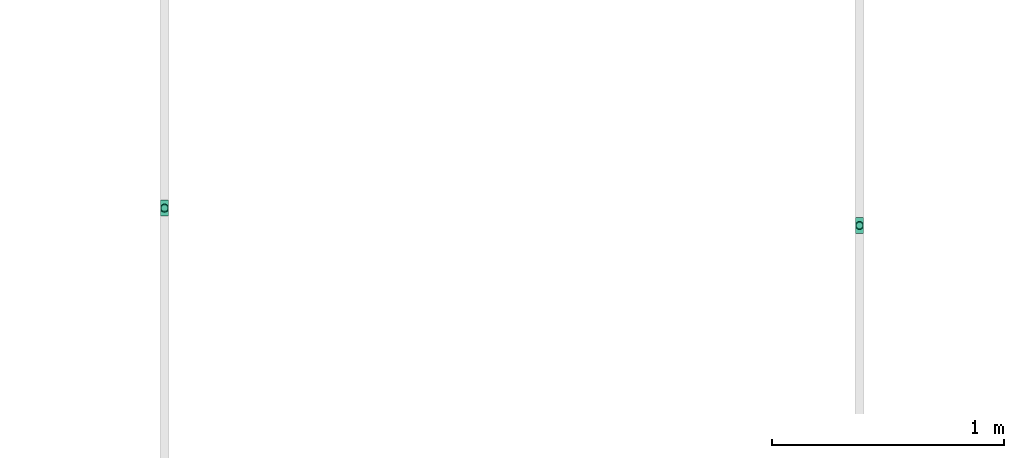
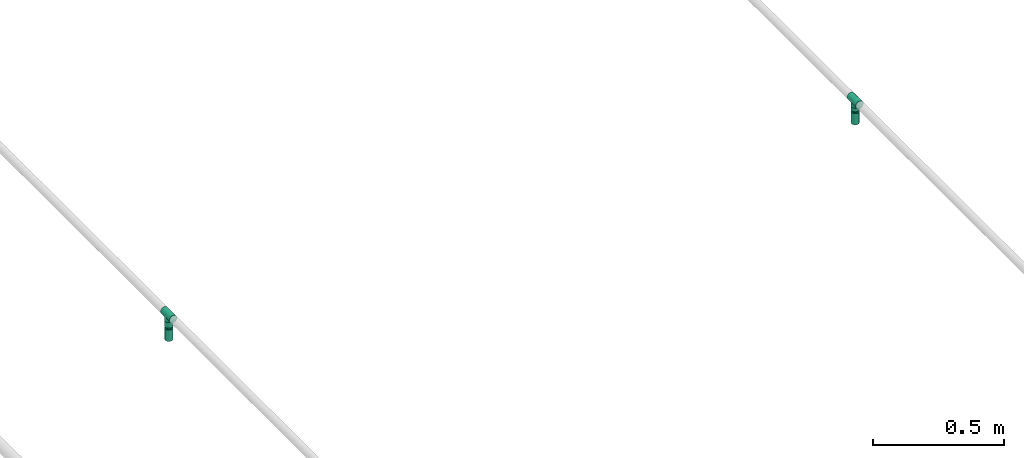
# One storey, part 16 of 32: 4 flow fittings, 2 flow segments, 2 flow terminals.
"""IFC2X3 building model written with IfcOpenShell, lengths in millimetres."""

from ifc_helpers import new_model, entity, si_unit, converted_unit, derived_unit, direction, frame, origin_with_axes, origin_2d_with_axis, place, context, subcontext, project, spatial, hollow_circle, extrude, open_shell, surface_model, source, transform, mapped, type_object, element, save


model = new_model("IFC2X3")

# Units and contexts
model_context = context("Model", 3, precision=0.01, world=frame((0.0, 4.29681676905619e-09, 0.0)), true_north=direction((4.01073788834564e-13, 1.0)))
plan_context = context("Plan", 3, precision=0.01, world=frame((0.0, 4.29681676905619e-09, 0.0)), true_north=direction((4.01073788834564e-13, 1.0)))
body_context = subcontext(model_context, "Body", "Model", "MODEL_VIEW")
ifc_project = project(units=[converted_unit("PLANEANGLEUNIT", "DEGREE", entity("IfcPositiveLengthMeasure", 0.0174532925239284), si_unit("PLANEANGLEUNIT", "RADIAN"), dimensions=[0, 0, 0, 0, 0, 0, 0]), si_unit("AREAUNIT", "SQUARE_METRE"), si_unit("LENGTHUNIT", "METRE", prefix="MILLI"), si_unit("MASSUNIT", "GRAM", prefix="KILO"), si_unit("POWERUNIT", "WATT"), si_unit("PRESSUREUNIT", "PASCAL", prefix="KILO"), si_unit("FORCEUNIT", "NEWTON", prefix="KILO"), si_unit("ELECTRICVOLTAGEUNIT", "VOLT"), si_unit("ELECTRICCURRENTUNIT", "AMPERE"), si_unit("THERMODYNAMICTEMPERATUREUNIT", "DEGREE_CELSIUS"), si_unit("TIMEUNIT", "SECOND"), si_unit("VOLUMEUNIT", "CUBIC_METRE"), derived_unit("LINEARVELOCITYUNIT", [(si_unit("LENGTHUNIT", "METRE"), 1), (si_unit("TIMEUNIT", "SECOND"), -1)]), derived_unit("VOLUMETRICFLOWRATEUNIT", [(si_unit("VOLUMEUNIT", "CUBIC_METRE"), 1), (si_unit("TIMEUNIT", "SECOND"), -1)]), derived_unit("THERMALTRANSMITTANCEUNIT", [(si_unit("POWERUNIT", "WATT"), 1), (si_unit("THERMODYNAMICTEMPERATUREUNIT", "KELVIN"), -1), (si_unit("AREAUNIT", "SQUARE_METRE"), -1)]), derived_unit("SOUNDPRESSUREUNIT", [(si_unit("PRESSUREUNIT", "PASCAL"), 1)])], contexts=[model_context, plan_context])

# Site, building, storey
site_placement = place(None, frame((0.0, -4.29681676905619e-09, 0.0), z_axis=(0.0, 0.0, 1.0), x_axis=(1.0, 0.0, 0.0)))
site = spatial("IfcSite", under=ifc_project, at=site_placement, CompositionType="ELEMENT")
building_placement = place(site_placement, frame((0.0, 4.29681676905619e-09, 0.0), z_axis=(0.0, 0.0, 1.0), x_axis=(1.0, 0.0, 0.0)))
building = spatial("IfcBuilding", under=site, at=building_placement, Name="mc-building", CompositionType="ELEMENT")
storey_placement = place(building_placement, frame((0.0, 0.0, 205200.0), z_axis=(0.0, 0.0, 1.0), x_axis=(1.0, 0.0, 0.0)))
storey = spatial("IfcBuildingStorey", under=building, at=storey_placement, Name="Nivå D + 1,2 m", CompositionType="ELEMENT", Elevation=205200.0)

# Flow fittings
pipe_fitting_type_1 = type_object("IfcPipeFittingType", Name="magi_pipe_fe_tee_centric_90_001", PredefinedType="JUNCTION")
shared_shape_1 = source(origin_with_axes(), body_context, "Body", "SurfaceModel", [
    surface_model("IfcShellBasedSurfaceModel", [(-33.8, 4.37404, -16.32415), (-33.8, 0.0, -16.9), (-33.8, 16.32415, -4.37404), (-33.8, 8.45, -14.63583), (-33.8, 11.9501, -11.9501), (-33.8, 14.63583, -8.45), (-33.8, -16.9, 0.0), (-33.8, -11.9501, -11.9501), (-33.8, -14.63583, -8.45), (-33.8, -8.45, -14.63583), (-33.8, -4.37404, -16.32415), (-33.8, -16.32415, -4.37404), (-33.8, 14.63583, 8.45), (-33.8, 16.32415, 4.37404), (-33.8, -8.45, 14.63583), (-33.8, 8.45, 14.63583), (-33.8, 11.9501, 11.9501), (-33.8, 4.37404, 16.32415), (-33.8, 0.0, 16.9), (-33.8, -11.9501, 11.9501), (-33.8, -14.63583, 8.45), (-33.8, -16.32415, 4.37404), (-33.8, -4.37404, 16.32415), (-33.8, 16.9, 0.0), (33.8, 4.37404, -16.32415), (33.8, -16.9, 0.0), (33.8, 0.0, -16.9), (33.8, 14.63583, -8.45), (33.8, 8.45, -14.63583), (33.8, 16.32415, -4.37404), (33.8, 11.9501, -11.9501), (33.8, -16.32415, 4.37404), (33.8, -8.45, -14.63583), (33.8, -4.37404, -16.32415), (33.8, -11.9501, -11.9501), (33.8, -14.63583, -8.45), (33.8, -16.32415, -4.37404), (33.8, 16.32415, 4.37404), (33.8, 8.45, 14.63583), (33.8, 14.63583, 8.45), (33.8, 11.9501, 11.9501), (33.8, -8.45, 14.63583), (33.8, 4.37404, 16.32415), (33.8, -14.63583, 8.45), (33.8, -11.9501, 11.9501), (33.8, 0.0, 16.9), (33.8, -4.37404, 16.32415), (33.8, 16.9, 0.0), (16.28698, -16.28698, 4.51047), (16.9, -16.9, 0.0), (14.62704, -14.62704, 8.4652), (9.47213, -9.47213, 13.99602), (12.26343, -12.26343, 11.62834), (-16.9, -16.9, 0.0), (-16.28698, -16.28698, 4.51047), (-14.62704, -14.62704, 8.4652), (-12.26343, -12.26343, 11.62834), (-9.47213, -9.47213, 13.99602), (-6.42894, -6.42894, 15.62942), (6.42894, -6.42894, 15.62942), (3.24522, -3.24522, 16.58549), (0.0, 0.0, 16.9), (-3.24522, -3.24522, 16.58549), (3.24522, -3.24522, -16.58549), (0.0, 0.0, -16.9), (-3.24522, -3.24522, -16.58549), (-6.42894, -6.42894, -15.62942), (6.42894, -6.42894, -15.62942), (9.47213, -9.47213, -13.99602), (12.26343, -12.26343, -11.62834), (14.62704, -14.62704, -8.4652), (16.28698, -16.28698, -4.51047), (-9.47213, -9.47213, -13.99602), (-12.26343, -12.26343, -11.62834), (-16.28698, -16.28698, -4.51047), (-14.62704, -14.62704, -8.4652), (4.37404, -25.35, -16.32415), (-16.9, -25.35, 0.0), (0.0, -25.35, -16.9), (14.63583, -25.35, -8.45), (8.45, -25.35, -14.63583), (16.32415, -25.35, -4.37404), (11.9501, -25.35, -11.9501), (-11.9501, -25.35, -11.9501), (-8.45, -25.35, -14.63583), (-4.37404, -25.35, -16.32415), (-14.63583, -25.35, -8.45), (-16.32415, -25.35, -4.37404), (16.9, -25.35, 0.0), (8.45, -25.35, 14.63583), (16.32415, -25.35, 4.37404), (14.63583, -25.35, 8.45), (-8.45, -25.35, 14.63583), (11.9501, -25.35, 11.9501), (4.37404, -25.35, 16.32415), (-16.32415, -25.35, 4.37404), (-11.9501, -25.35, 11.9501), (-14.63583, -25.35, 8.45), (0.0, -25.35, 16.9), (-4.37404, -25.35, 16.32415)], [open_shell([[[0, 1, 2]], [[3, 0, 4]], [[0, 2, 5]], [[4, 0, 5]], [[6, 2, 1]], [[7, 8, 9]], [[1, 10, 9]], [[11, 6, 8]], [[1, 9, 8]], [[1, 8, 6]], [[6, 12, 2]], [[12, 13, 2]], [[14, 12, 6]], [[12, 14, 15]], [[16, 12, 15]], [[17, 15, 18]], [[19, 14, 20]], [[21, 20, 14]], [[22, 18, 14]], [[14, 6, 21]], [[14, 18, 15]], [[23, 2, 13]], [[24, 25, 26]], [[27, 24, 28]], [[27, 29, 24]], [[27, 28, 30]], [[31, 25, 24]], [[26, 32, 33]], [[26, 34, 32]], [[35, 25, 36]], [[35, 34, 26]], [[25, 35, 26]], [[24, 29, 31]], [[29, 37, 38]], [[38, 37, 39]], [[38, 31, 29]], [[38, 39, 40]], [[41, 38, 42]], [[43, 41, 44]], [[41, 43, 31]], [[41, 45, 46]], [[41, 31, 38]], [[42, 45, 41]], [[29, 47, 37]], [[31, 43, 48]], [[25, 31, 49]], [[49, 31, 48]], [[43, 50, 48]], [[44, 41, 51]], [[50, 43, 52]], [[51, 52, 44]], [[52, 43, 44]], [[53, 54, 21]], [[53, 21, 6]], [[21, 54, 20]], [[54, 55, 20]], [[56, 57, 19]], [[19, 20, 56]], [[19, 57, 14]], [[56, 20, 55]], [[14, 57, 58]], [[51, 41, 59]], [[60, 45, 61]], [[59, 46, 60]], [[46, 59, 41]], [[60, 46, 45]], [[61, 45, 42]], [[39, 37, 13]], [[16, 38, 40]], [[12, 40, 39]], [[42, 38, 15]], [[23, 37, 47]], [[62, 61, 18]], [[62, 22, 58]], [[22, 62, 18]], [[58, 22, 14]], [[61, 17, 18]], [[42, 17, 61]], [[15, 17, 42]], [[15, 38, 16]], [[12, 16, 40]], [[13, 12, 39]], [[37, 23, 13]], [[5, 27, 30]], [[23, 47, 29]], [[30, 28, 3]], [[27, 2, 29]], [[26, 33, 63]], [[26, 64, 24]], [[64, 26, 63]], [[28, 24, 0]], [[64, 0, 24]], [[4, 30, 3]], [[2, 27, 5]], [[5, 30, 4]], [[2, 23, 29]], [[65, 66, 10]], [[1, 0, 64]], [[1, 65, 10]], [[66, 9, 10]], [[0, 3, 28]], [[1, 64, 65]], [[63, 33, 67]], [[32, 34, 68]], [[69, 68, 34]], [[35, 70, 69]], [[69, 34, 35]], [[32, 68, 67]], [[36, 25, 49]], [[36, 71, 35]], [[71, 36, 49]], [[35, 71, 70]], [[72, 9, 66]], [[72, 7, 9]], [[7, 72, 73]], [[7, 73, 8]], [[74, 53, 11]], [[75, 74, 8]], [[74, 11, 8]], [[11, 53, 6]], [[75, 8, 73]], [[32, 67, 33]], [[76, 77, 78]], [[79, 76, 80]], [[79, 81, 76]], [[79, 80, 82]], [[77, 76, 81]], [[78, 83, 84]], [[84, 85, 78]], [[86, 77, 87]], [[83, 78, 86]], [[77, 86, 78]], [[81, 88, 77]], [[89, 88, 90]], [[89, 90, 91]], [[92, 77, 89]], [[89, 91, 93]], [[92, 89, 94]], [[95, 96, 97]], [[96, 95, 92]], [[92, 98, 99]], [[95, 77, 92]], [[94, 98, 92]], [[89, 77, 88]], [[77, 95, 53]], [[54, 53, 95]], [[97, 96, 56]], [[96, 92, 57]], [[95, 97, 54]], [[58, 92, 99]], [[55, 54, 97]], [[56, 55, 97]], [[58, 57, 92]], [[98, 61, 62]], [[58, 99, 62]], [[56, 96, 57]], [[62, 99, 98]], [[94, 60, 98]], [[89, 59, 94]], [[91, 90, 48]], [[52, 93, 91]], [[93, 51, 89]], [[49, 90, 88]], [[59, 60, 94]], [[51, 59, 89]], [[49, 48, 90]], [[50, 52, 91]], [[48, 50, 91]], [[51, 93, 52]], [[98, 60, 61]], [[88, 81, 49]], [[71, 49, 81]], [[79, 82, 69]], [[82, 80, 68]], [[81, 79, 71]], [[67, 80, 76]], [[70, 71, 79]], [[69, 70, 79]], [[67, 68, 80]], [[78, 64, 63]], [[67, 76, 63]], [[69, 82, 68]], [[63, 76, 78]], [[85, 65, 78]], [[84, 66, 85]], [[86, 87, 74]], [[86, 73, 83]], [[72, 84, 83]], [[53, 87, 77]], [[66, 65, 85]], [[72, 66, 84]], [[53, 74, 87]], [[75, 73, 86]], [[74, 75, 86]], [[72, 83, 73]], [[78, 65, 64]]])]),
])
for number, where, z_axis, x_axis, name in (
    (1, (335492.5, 463892.26745, 4444.43145999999), (-1.0, 0.0, 0.0), (0.0, -1.0, 0.0), "magi_pipe_fe_tee_centric_90_001"),
    (2, (332502.5, 463967.26745, 4444.43145999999), (-1.0, 0.0, 0.0), (0.0, -1.0, 0.0), "magi_pipe_fe_tee_centric_90_001"),
):
    element("IfcFlowFitting", number, at=place(storey_placement, frame(where, z_axis=z_axis, x_axis=x_axis)), inside=storey, type_object=pipe_fitting_type_1, Name=name, context=body_context, shape_type="MappedRepresentation", body=[
        mapped(shared_shape_1, transform((0.0, 0.0, 0.0), scale=1.0)),
    ])
pipe_fitting_type_2 = type_object("IfcPipeFittingType", Name="magi_pipe_fe_reducer_centric_short_001", PredefinedType="TRANSITION")
shared_shape_2 = source(origin_with_axes(), body_context, "Body", "SurfaceModel", [
    surface_model("IfcShellBasedSurfaceModel", [(-2.0, 11.9501, 11.9501), (-2.0, 0.0, 16.9), (-2.0, 4.37404, 16.32415), (-2.0, 8.45, 14.63583), (-2.0, 14.63583, 8.45), (-2.0, 16.32415, 4.37404), (-2.0, -16.32415, 4.37404), (-2.0, -8.45, 14.63583), (-2.0, -14.63583, 8.45), (-2.0, -11.9501, 11.9501), (-2.0, -4.37404, 16.32415), (-2.0, -16.32415, -4.37404), (-2.0, -16.9, 0.0), (-2.0, -8.45, -14.63583), (-2.0, 16.32415, -4.37404), (-2.0, 11.9501, -11.9501), (-2.0, 14.63583, -8.45), (-2.0, 8.45, -14.63583), (-2.0, 4.37404, -16.32415), (-2.0, 0.0, -16.9), (-2.0, -11.9501, -11.9501), (-2.0, -14.63583, -8.45), (-2.0, -4.37404, -16.32415), (-2.0, 16.9, 0.0), (0.0, 4.37404, -16.32415), (0.0, 8.45, -14.63583), (0.0, 11.9501, -11.9501), (0.0, 0.0, -16.9), (0.0, 16.32415, -4.37404), (0.0, 16.32415, 4.37404), (0.0, 14.63583, -8.45), (0.0, -8.45, -14.63583), (0.0, -4.37404, -16.32415), (0.0, -11.9501, -11.9501), (0.0, -16.32415, -4.37404), (0.0, -14.63583, -8.45), (0.0, -16.32415, 4.37404), (0.0, 16.9, 0.0), (0.0, 14.63583, 8.45), (0.0, 11.9501, 11.9501), (0.0, 4.37404, 16.32415), (0.0, 8.45, 14.63583), (0.0, 0.0, 16.9), (0.0, -14.63583, 8.45), (0.0, -16.9, 0.0), (0.0, -8.45, 14.63583), (0.0, -11.9501, 11.9501), (0.0, -4.37404, 16.32415), (14.4, 5.35, -9.26647), (14.4, 0.0, -10.7), (14.4, 2.76936, -10.33541), (14.4, 10.33541, -2.76936), (14.4, 7.56604, -7.56604), (14.4, -5.35, -9.26647), (14.4, 9.26647, -5.35), (14.4, -9.26647, 5.35), (14.4, -2.76936, -10.33541), (14.4, -7.56604, -7.56604), (14.4, -10.33541, -2.76936), (14.4, -9.26647, -5.35), (14.4, 10.33541, 2.76936), (14.4, 10.7, 0.0), (14.4, 9.26647, 5.35), (14.4, 7.56604, 7.56604), (14.4, 2.76936, 10.33541), (14.4, 0.0, 10.7), (14.4, 5.35, 9.26647), (14.4, -10.33541, 2.76936), (14.4, -10.7, 0.0), (14.4, -7.56604, 7.56604), (14.4, -2.76936, 10.33541), (14.4, -5.35, 9.26647), (12.4, 0.0, 10.7), (12.4, 2.76936, 10.33541), (12.4, 5.35, 9.26647), (12.4, 7.56604, 7.56604), (12.4, 9.26647, 5.35), (12.4, 10.33541, 2.76936), (12.4, -10.33541, 2.76936), (12.4, 10.33541, -2.76936), (12.4, -2.76936, 10.33541), (12.4, -7.56604, 7.56604), (12.4, -5.35, 9.26647), (12.4, -9.26647, 5.35), (12.4, -10.33541, -2.76936), (12.4, -10.7, 0.0), (12.4, 2.76936, -10.33541), (12.4, 9.26647, -5.35), (12.4, 7.56604, -7.56604), (12.4, 5.35, -9.26647), (12.4, -7.56604, -7.56604), (12.4, -9.26647, -5.35), (12.4, -5.35, -9.26647), (12.4, 0.0, -10.7), (12.4, -2.76936, -10.33541), (12.4, 10.7, 0.0), (12.4, 9.3625, -2.31662), (0.0, 14.42505, -5.97505), (0.0, 15.66253, -2.98753), (12.4, -6.6875, -6.94985), (0.0, -13.18758, -8.96258), (0.0, 2.98753, -15.66253), (12.4, 0.0, -9.26647), (12.4, 6.6875, -6.94985), (0.0, 8.96258, -13.18758), (12.4, -9.3625, -2.31662), (0.0, -15.66253, -2.98753), (0.0, -14.42505, -5.97505), (0.0, 5.97505, -14.42505), (0.0, -2.98753, -15.66253), (0.0, -8.96258, -13.18758), (0.0, 13.18758, -8.96258), (12.4, 8.025, -4.63324), (12.4, -2.675, -9.26647), (12.4, 2.675, -9.26647), (0.0, -5.97505, -14.42505), (12.4, -8.025, -4.63324), (12.4, -9.3625, 2.31662), (0.0, -14.42505, 5.97505), (0.0, -15.66253, 2.98753), (12.4, 6.6875, 6.94985), (0.0, 13.18758, 8.96258), (0.0, -2.98753, 15.66253), (12.4, 0.0, 9.26647), (12.4, -6.6875, 6.94985), (0.0, -8.96258, 13.18758), (12.4, 9.3625, 2.31662), (0.0, 15.66253, 2.98753), (0.0, 14.42505, 5.97505), (0.0, -5.97505, 14.42505), (0.0, 2.98753, 15.66253), (0.0, 8.96258, 13.18758), (0.0, -13.18758, 8.96258), (12.4, -8.025, 4.63324), (12.4, 2.675, 9.26647), (12.4, -2.675, 9.26647), (0.0, 5.97505, 14.42505), (12.4, 8.025, 4.63324)], [open_shell([[[0, 1, 2]], [[0, 2, 3]], [[0, 4, 5]], [[0, 5, 1]], [[1, 5, 6]], [[7, 8, 9]], [[7, 10, 1]], [[8, 7, 1]], [[1, 6, 8]], [[6, 11, 12]], [[6, 5, 13]], [[5, 14, 15]], [[15, 14, 16]], [[15, 17, 18]], [[13, 5, 15]], [[19, 15, 18]], [[11, 20, 21]], [[20, 11, 13]], [[13, 19, 22]], [[11, 6, 13]], [[15, 19, 13]], [[5, 23, 14]], [[24, 25, 26]], [[27, 24, 26]], [[26, 28, 29]], [[28, 26, 30]], [[26, 29, 31]], [[27, 31, 32]], [[27, 26, 31]], [[33, 34, 35]], [[34, 33, 31]], [[31, 36, 34]], [[29, 28, 37]], [[29, 38, 39]], [[29, 39, 40]], [[40, 36, 31]], [[40, 39, 41]], [[36, 40, 42]], [[42, 43, 36]], [[44, 34, 36]], [[43, 45, 46]], [[43, 42, 45]], [[45, 42, 47]], [[31, 29, 40]], [[11, 34, 12]], [[21, 35, 11]], [[31, 20, 13]], [[21, 20, 33]], [[32, 13, 22]], [[11, 35, 34]], [[34, 44, 12]], [[32, 31, 13]], [[33, 20, 31]], [[33, 35, 21]], [[27, 32, 22]], [[22, 19, 27]], [[18, 24, 19]], [[17, 25, 18]], [[30, 15, 16]], [[17, 15, 26]], [[28, 16, 14]], [[17, 26, 25]], [[25, 24, 18]], [[37, 28, 14]], [[30, 16, 28]], [[30, 26, 15]], [[23, 37, 14]], [[19, 24, 27]], [[5, 29, 23]], [[4, 38, 5]], [[41, 0, 3]], [[4, 0, 39]], [[40, 3, 2]], [[5, 38, 29]], [[29, 37, 23]], [[40, 41, 3]], [[39, 0, 41]], [[39, 38, 4]], [[42, 40, 2]], [[2, 1, 42]], [[10, 47, 1]], [[7, 45, 10]], [[43, 9, 8]], [[7, 9, 46]], [[36, 8, 6]], [[7, 46, 45]], [[45, 47, 10]], [[44, 36, 6]], [[43, 8, 36]], [[43, 46, 9]], [[12, 44, 6]], [[1, 47, 42]], [[33, 44, 27]], [[48, 49, 50]], [[51, 48, 52]], [[53, 48, 51]], [[51, 52, 54]], [[55, 53, 51]], [[49, 53, 56]], [[49, 48, 53]], [[57, 58, 59]], [[58, 57, 53]], [[53, 55, 58]], [[60, 51, 61]], [[60, 62, 63]], [[51, 63, 55]], [[64, 65, 63]], [[64, 63, 66]], [[55, 63, 65]], [[58, 67, 68]], [[55, 67, 58]], [[69, 70, 71]], [[70, 69, 55]], [[65, 70, 55]], [[51, 60, 63]], [[72, 73, 74]], [[72, 74, 75]], [[75, 76, 77]], [[72, 75, 78]], [[79, 78, 75]], [[80, 81, 82]], [[81, 80, 78]], [[81, 78, 83]], [[80, 72, 78]], [[78, 84, 85]], [[79, 75, 77]], [[84, 78, 79]], [[86, 79, 87]], [[88, 89, 86]], [[88, 86, 87]], [[84, 79, 86]], [[84, 90, 91]], [[90, 84, 92]], [[92, 93, 94]], [[92, 84, 86]], [[86, 93, 92]], [[79, 77, 95]], [[84, 58, 85]], [[91, 59, 84]], [[53, 90, 92]], [[91, 90, 57]], [[56, 92, 94]], [[84, 59, 58]], [[58, 68, 85]], [[56, 53, 92]], [[57, 90, 53]], [[57, 59, 91]], [[49, 56, 94]], [[94, 93, 49]], [[86, 50, 93]], [[89, 48, 86]], [[54, 88, 87]], [[89, 88, 52]], [[51, 87, 79]], [[89, 52, 48]], [[48, 50, 86]], [[61, 51, 79]], [[54, 87, 51]], [[54, 52, 88]], [[95, 61, 79]], [[93, 50, 49]], [[77, 60, 95]], [[76, 62, 77]], [[66, 75, 74]], [[76, 75, 63]], [[64, 74, 73]], [[77, 62, 60]], [[60, 61, 95]], [[64, 66, 74]], [[63, 75, 66]], [[63, 62, 76]], [[65, 64, 73]], [[73, 72, 65]], [[80, 70, 72]], [[82, 71, 80]], [[55, 81, 83]], [[82, 81, 69]], [[67, 83, 78]], [[82, 69, 71]], [[71, 70, 80]], [[68, 67, 78]], [[55, 83, 67]], [[55, 69, 81]], [[85, 68, 78]], [[72, 70, 65]], [[74, 82, 95]], [[95, 82, 92]], [[92, 89, 95]], [[92, 82, 85]], [[42, 39, 44]], [[44, 46, 42]], [[39, 26, 44]], [[27, 44, 26]], [[26, 39, 37]], [[96, 97, 98]], [[33, 99, 100]], [[101, 102, 27]], [[98, 37, 95]], [[26, 103, 104]], [[104, 103, 89]], [[105, 106, 107]], [[89, 108, 104]], [[102, 109, 27]], [[110, 99, 33]], [[95, 96, 98]], [[103, 111, 112]], [[109, 102, 113]], [[85, 44, 106]], [[102, 101, 114]], [[110, 115, 92]], [[96, 112, 97]], [[107, 116, 105]], [[85, 106, 105]], [[113, 115, 109]], [[92, 115, 113]], [[116, 107, 100]], [[108, 89, 114]], [[111, 103, 26]], [[111, 97, 112]], [[99, 110, 92]], [[116, 100, 99]], [[101, 108, 114]], [[117, 118, 119]], [[39, 120, 121]], [[122, 123, 42]], [[119, 44, 85]], [[46, 124, 125]], [[125, 124, 82]], [[126, 127, 128]], [[82, 129, 125]], [[123, 130, 42]], [[131, 120, 39]], [[85, 117, 119]], [[124, 132, 133]], [[130, 123, 134]], [[95, 37, 127]], [[123, 122, 135]], [[131, 136, 74]], [[117, 133, 118]], [[128, 137, 126]], [[95, 127, 126]], [[134, 136, 130]], [[74, 136, 134]], [[137, 128, 121]], [[129, 82, 135]], [[132, 124, 46]], [[132, 118, 133]], [[120, 131, 74]], [[137, 121, 120]], [[122, 129, 135]]])]),
])
for number, where, z_axis, x_axis, name in (
    (3, (335492.5, 463892.26745, 4402.78346000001), (1.0, 0.0, 0.0), (0.0, 0.0, -1.0), "magi_pipe_fe_reducer_centric_short_001"),
    (4, (332502.5, 463967.26745, 4392.78346000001), (1.0, 0.0, 0.0), (0.0, 0.0, -1.0), "magi_pipe_fe_reducer_centric_short_001"),
):
    element("IfcFlowFitting", number, at=place(storey_placement, frame(where, z_axis=z_axis, x_axis=x_axis)), inside=storey, type_object=pipe_fitting_type_2, Name=name, context=body_context, shape_type="MappedRepresentation", body=[
        mapped(shared_shape_2, transform((0.0, 0.0, 0.0), scale=1.0)),
    ])

# Flow segments
pipe_segment_type = type_object("IfcPipeSegmentType", Name="Stålrør normaltykke", PredefinedType="RIGIDSEGMENT")
shared_shape_3 = source(origin_with_axes(), body_context, "Body", "SweptSolid", [
    extrude(hollow_circle(Radius=16.9, WallThickness=2.0, at=origin_2d_with_axis()), frame((0.0, 0.0, 0.0), z_axis=(1.0, 0.0, 0.0), x_axis=(0.0, 1.0, 0.0)), (0.0, 0.0, 1.0), 26.3),
])
flow_segment_1_placement = place(storey_placement, frame((332502.5, 463967.26745, 4419.08145999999), z_axis=(-1.0, 0.0, 0.0), x_axis=(0.0, 0.0, -1.0)))
element("IfcFlowSegment", 5, at=flow_segment_1_placement, inside=storey, type_object=pipe_segment_type, Name="Stålrør normaltykke", context=body_context, shape_type="MappedRepresentation", body=[
    mapped(shared_shape_3, transform((0.0, 0.0, 0.0), scale=1.0)),
])
shared_shape_4 = source(origin_with_axes(), body_context, "Body", "SweptSolid", [
    extrude(hollow_circle(Radius=16.9, WallThickness=2.0, at=origin_2d_with_axis()), frame((0.0, 0.0, 0.0), z_axis=(1.0, 0.0, 0.0), x_axis=(0.0, 1.0, 0.0)), (0.0, 0.0, 1.0), 16.3),
])
flow_segment_2_placement = place(storey_placement, frame((335492.5, 463892.26745, 4419.08145999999), z_axis=(-1.0, 0.0, 0.0), x_axis=(0.0, 0.0, -1.0)))
element("IfcFlowSegment", 6, at=flow_segment_2_placement, inside=storey, type_object=pipe_segment_type, Name="Stålrør normaltykke", context=body_context, shape_type="MappedRepresentation", body=[
    mapped(shared_shape_4, transform((0.0, 0.0, 0.0), scale=1.0, scale2=1.0, scale3=1.0, uniform=False)),
])

# Flow terminals
fire_suppression_terminal_type = type_object("IfcFireSuppressionTerminalType", Name="SP-15-K80-68DGR-STD-NEDOVER", PredefinedType="NOTDEFINED")
shared_shape_5 = source(origin_with_axes(), body_context, "Body", "SurfaceModel", [
    surface_model("IfcShellBasedSurfaceModel", [(4.1411, -15.45481, 53.0), (8.0, -13.85641, 53.0), (11.31371, -11.31371, 53.0), (-8.0, -13.85641, 53.0), (15.45481, -4.1411, 53.0), (16.0, 0.0, 53.0), (13.85641, -8.0, 53.0), (0.0, -16.0, 53.0), (-4.1411, -15.45481, 53.0), (-13.85641, -8.0, 53.0), (-11.31371, -11.31371, 53.0), (-15.45481, -4.1411, 53.0), (15.45481, 4.1411, 53.0), (13.85641, 8.0, 53.0), (11.31371, 11.31371, 53.0), (-4.1411, 15.45481, 53.0), (8.0, 13.85641, 53.0), (4.1411, 15.45481, 53.0), (0.0, 16.0, 53.0), (-13.85641, 8.0, 53.0), (-15.45481, 4.1411, 53.0), (-16.0, 0.0, 53.0), (-11.31371, 11.31371, 53.0), (-8.0, 13.85641, 53.0), (0.0, 16.0, 0.0), (4.1411, 15.45481, 0.0), (8.0, 13.85641, 0.0), (-4.1411, 15.45481, 0.0), (11.31371, 11.31371, 0.0), (13.85641, 8.0, 0.0), (15.45481, 4.1411, 0.0), (-15.45481, -4.1411, 0.0), (-11.31371, 11.31371, 0.0), (-8.0, 13.85641, 0.0), (-13.85641, 8.0, 0.0), (-15.45481, 4.1411, 0.0), (-16.0, 0.0, 0.0), (4.1411, -15.45481, 0.0), (16.0, 0.0, 0.0), (15.45481, -4.1411, 0.0), (13.85641, -8.0, 0.0), (11.31371, -11.31371, 0.0), (8.0, -13.85641, 0.0), (-8.0, -13.85641, 0.0), (-13.85641, -8.0, 0.0), (-11.31371, -11.31371, 0.0), (0.0, -16.0, 0.0), (-4.1411, -15.45481, 0.0)], [open_shell([[[0, 1, 2]], [[3, 0, 2]], [[4, 5, 2]], [[4, 2, 6]], [[3, 2, 5]], [[7, 3, 8]], [[7, 0, 3]], [[3, 9, 10]], [[9, 3, 11]], [[5, 11, 3]], [[5, 12, 11]], [[12, 13, 14]], [[15, 12, 14]], [[16, 17, 18]], [[14, 16, 15]], [[18, 15, 16]], [[11, 19, 20]], [[21, 11, 20]], [[22, 15, 23]], [[15, 22, 19]], [[19, 11, 15]], [[11, 12, 15]], [[24, 25, 26]], [[27, 24, 26]], [[28, 29, 30]], [[27, 26, 28]], [[27, 28, 31]], [[27, 32, 33]], [[32, 27, 34]], [[34, 31, 35]], [[31, 34, 27]], [[35, 31, 36]], [[28, 30, 31]], [[37, 38, 39]], [[37, 39, 40]], [[41, 42, 37]], [[41, 37, 40]], [[38, 37, 43]], [[44, 43, 45]], [[43, 44, 31]], [[43, 46, 47]], [[43, 31, 38]], [[37, 46, 43]], [[38, 31, 30]], [[11, 31, 44]], [[45, 9, 44]], [[3, 43, 47]], [[45, 43, 10]], [[8, 47, 46]], [[31, 21, 36]], [[31, 11, 21]], [[44, 9, 11]], [[45, 10, 9]], [[3, 10, 43]], [[47, 8, 3]], [[46, 7, 8]], [[0, 37, 42]], [[41, 1, 42]], [[6, 40, 39]], [[41, 40, 2]], [[4, 39, 38]], [[37, 0, 7]], [[42, 1, 0]], [[41, 2, 1]], [[40, 6, 2]], [[4, 6, 39]], [[38, 5, 4]], [[37, 7, 46]], [[12, 38, 30]], [[13, 30, 29]], [[16, 26, 25]], [[17, 25, 24]], [[30, 13, 12]], [[12, 5, 38]], [[28, 14, 13]], [[28, 26, 14]], [[14, 26, 16]], [[25, 17, 16]], [[28, 13, 29]], [[24, 18, 17]], [[15, 27, 33]], [[32, 23, 33]], [[19, 34, 35]], [[32, 34, 22]], [[20, 35, 36]], [[27, 15, 18]], [[33, 23, 15]], [[32, 22, 23]], [[34, 19, 22]], [[20, 19, 35]], [[36, 21, 20]], [[27, 18, 24]]])]),
])
for number, where, z_axis, x_axis in (
    (7, (335492.5, 463892.26745, 4393.43145999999), (0.0, 0.0, -1.0), (1.0, 0.0, 0.0)),
    (8, (332502.5, 463967.26745, 4383.43145999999), (0.0, 0.0, -1.0), (1.0, 0.0, 0.0)),
):
    element("IfcFlowTerminal", number, at=place(storey_placement, frame(where, z_axis=z_axis, x_axis=x_axis)), inside=storey, type_object=fire_suppression_terminal_type, Name="SP-15-K80-68DGR-STD-NEDOVER", context=body_context, shape_type="MappedRepresentation", body=[
        mapped(shared_shape_5, transform((0.0, 0.0, 0.0), scale=1.0)),
    ])

save(model, "model.ifc")
